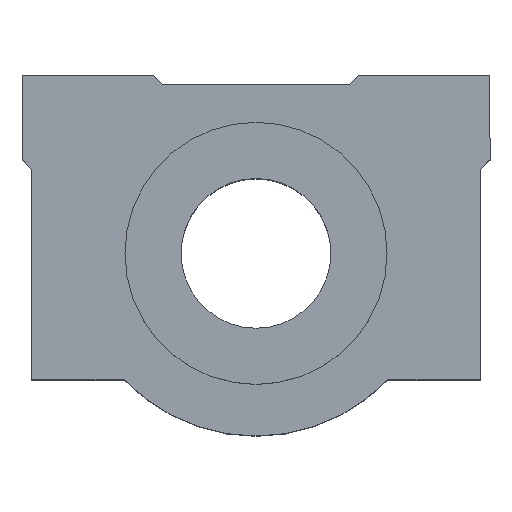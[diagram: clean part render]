
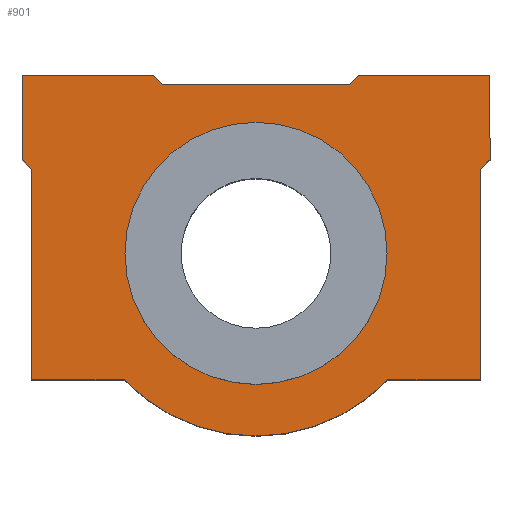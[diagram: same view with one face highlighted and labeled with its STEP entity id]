
A CAD part, top view. The second image highlights one B-rep face of the part: STEP entity #901.
In plain terms, the highlighted planar face has unit normal (0, 0, 1).
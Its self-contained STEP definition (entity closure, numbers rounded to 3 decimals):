
#133=CARTESIAN_POINT('',(-14.709,4.198,30.25));
#134=VERTEX_POINT('',#133);
#143=CARTESIAN_POINT('',(13.291,4.198,30.25));
#144=VERTEX_POINT('',#143);
#145=CARTESIAN_POINT('',(-0.709,4.198,30.25));
#146=DIRECTION('',(0.0,0.0,1.0));
#147=DIRECTION('',(-1.0,0.0,0.0));
#148=AXIS2_PLACEMENT_3D('',#145,#146,#147);
#149=CIRCLE('',#148,14.);
#150=EDGE_CURVE('',#134,#144,#149,.T.);
#522=CARTESIAN_POINT('',(24.291,14.198,30.25));
#523=VERTEX_POINT('',#522);
#524=CARTESIAN_POINT('',(23.291,13.198,30.25));
#525=VERTEX_POINT('',#524);
#526=CARTESIAN_POINT('',(24.291,14.198,30.25));
#527=DIRECTION('',(-0.707,-0.707,0.0));
#528=VECTOR('',#527,1.414);
#529=LINE('',#526,#528);
#530=EDGE_CURVE('',#523,#525,#529,.T.);
#553=CARTESIAN_POINT('',(23.291,-9.302,30.25));
#554=VERTEX_POINT('',#553);
#555=CARTESIAN_POINT('',(23.291,13.198,30.25));
#556=DIRECTION('',(0.0,-1.0,0.0));
#557=VECTOR('',#556,22.5);
#558=LINE('',#555,#557);
#559=EDGE_CURVE('',#525,#554,#558,.T.);
#577=CARTESIAN_POINT('',(13.362,-9.302,30.25));
#578=VERTEX_POINT('',#577);
#579=CARTESIAN_POINT('',(23.291,-9.302,30.25));
#580=DIRECTION('',(-1.0,0.0,0.0));
#581=VECTOR('',#580,9.929);
#582=LINE('',#579,#581);
#583=EDGE_CURVE('',#554,#578,#582,.T.);
#605=CARTESIAN_POINT('',(-14.78,-9.302,30.25));
#606=VERTEX_POINT('',#605);
#607=CARTESIAN_POINT('',(-0.709,4.198,30.25));
#608=DIRECTION('',(0.0,0.0,-1.));
#609=DIRECTION('',(0.722,0.692,0.0));
#610=AXIS2_PLACEMENT_3D('',#607,#608,#609);
#611=CIRCLE('',#610,19.5);
#612=EDGE_CURVE('',#578,#606,#611,.T.);
#630=CARTESIAN_POINT('',(-24.709,-9.302,30.25));
#631=VERTEX_POINT('',#630);
#632=CARTESIAN_POINT('',(-14.78,-9.302,30.25));
#633=DIRECTION('',(-1.0,0.0,0.0));
#634=VECTOR('',#633,9.929);
#635=LINE('',#632,#634);
#636=EDGE_CURVE('',#606,#631,#635,.T.);
#658=CARTESIAN_POINT('',(-24.709,13.198,30.25));
#659=VERTEX_POINT('',#658);
#660=CARTESIAN_POINT('',(-24.709,-9.302,30.25));
#661=DIRECTION('',(0.0,1.0,0.0));
#662=VECTOR('',#661,22.5);
#663=LINE('',#660,#662);
#664=EDGE_CURVE('',#631,#659,#663,.T.);
#682=CARTESIAN_POINT('',(-25.709,14.198,30.25));
#683=VERTEX_POINT('',#682);
#684=CARTESIAN_POINT('',(-24.709,13.198,30.25));
#685=DIRECTION('',(-0.707,0.707,0.0));
#686=VECTOR('',#685,1.414);
#687=LINE('',#684,#686);
#688=EDGE_CURVE('',#659,#683,#687,.T.);
#706=CARTESIAN_POINT('',(-25.709,23.198,30.25));
#707=VERTEX_POINT('',#706);
#708=CARTESIAN_POINT('',(-25.709,14.198,30.25));
#709=DIRECTION('',(0.0,1.0,0.0));
#710=VECTOR('',#709,9.);
#711=LINE('',#708,#710);
#712=EDGE_CURVE('',#683,#707,#711,.T.);
#730=CARTESIAN_POINT('',(-11.709,23.198,30.25));
#731=VERTEX_POINT('',#730);
#732=CARTESIAN_POINT('',(-25.709,23.198,30.25));
#733=DIRECTION('',(1.0,0.0,0.0));
#734=VECTOR('',#733,14.);
#735=LINE('',#732,#734);
#736=EDGE_CURVE('',#707,#731,#735,.T.);
#758=CARTESIAN_POINT('',(-10.709,22.198,30.25));
#759=VERTEX_POINT('',#758);
#760=CARTESIAN_POINT('',(-11.709,23.198,30.25));
#761=DIRECTION('',(0.707,-0.707,0.0));
#762=VECTOR('',#761,1.414);
#763=LINE('',#760,#762);
#764=EDGE_CURVE('',#731,#759,#763,.T.);
#782=CARTESIAN_POINT('',(9.291,22.198,30.25));
#783=VERTEX_POINT('',#782);
#784=CARTESIAN_POINT('',(-10.709,22.198,30.25));
#785=DIRECTION('',(1.0,0.0,0.0));
#786=VECTOR('',#785,20.);
#787=LINE('',#784,#786);
#788=EDGE_CURVE('',#759,#783,#787,.T.);
#806=CARTESIAN_POINT('',(10.291,23.198,30.25));
#807=VERTEX_POINT('',#806);
#808=CARTESIAN_POINT('',(9.291,22.198,30.25));
#809=DIRECTION('',(0.707,0.707,0.0));
#810=VECTOR('',#809,1.414);
#811=LINE('',#808,#810);
#812=EDGE_CURVE('',#783,#807,#811,.T.);
#830=CARTESIAN_POINT('',(24.291,23.198,30.25));
#831=VERTEX_POINT('',#830);
#832=CARTESIAN_POINT('',(10.291,23.198,30.25));
#833=DIRECTION('',(1.0,0.0,0.0));
#834=VECTOR('',#833,14.);
#835=LINE('',#832,#834);
#836=EDGE_CURVE('',#807,#831,#835,.T.);
#858=CARTESIAN_POINT('',(24.291,23.198,30.25));
#859=DIRECTION('',(0.0,-1.0,0.0));
#860=VECTOR('',#859,9.);
#861=LINE('',#858,#860);
#862=EDGE_CURVE('',#831,#523,#861,.T.);
#870=CARTESIAN_POINT('',(-0.709,6.142,30.25));
#871=DIRECTION('',(0.0,0.0,1.0));
#872=DIRECTION('',(1.0,0.0,0.0));
#873=AXIS2_PLACEMENT_3D('',#870,#871,#872);
#874=PLANE('',#873);
#875=ORIENTED_EDGE('',*,*,#530,.F.);
#876=ORIENTED_EDGE('',*,*,#862,.F.);
#877=ORIENTED_EDGE('',*,*,#836,.F.);
#878=ORIENTED_EDGE('',*,*,#812,.F.);
#879=ORIENTED_EDGE('',*,*,#788,.F.);
#880=ORIENTED_EDGE('',*,*,#764,.F.);
#881=ORIENTED_EDGE('',*,*,#736,.F.);
#882=ORIENTED_EDGE('',*,*,#712,.F.);
#883=ORIENTED_EDGE('',*,*,#688,.F.);
#884=ORIENTED_EDGE('',*,*,#664,.F.);
#885=ORIENTED_EDGE('',*,*,#636,.F.);
#886=ORIENTED_EDGE('',*,*,#612,.F.);
#887=ORIENTED_EDGE('',*,*,#583,.F.);
#888=ORIENTED_EDGE('',*,*,#559,.F.);
#889=EDGE_LOOP('',(#875,#876,#877,#878,#879,#880,#881,#882,#883,#884,#885,#886,#887,#888));
#890=FACE_OUTER_BOUND('',#889,.T.);
#891=CARTESIAN_POINT('',(-0.709,4.198,30.25));
#892=DIRECTION('',(0.0,0.0,1.0));
#893=DIRECTION('',(-1.0,0.0,0.0));
#894=AXIS2_PLACEMENT_3D('',#891,#892,#893);
#895=CIRCLE('',#894,14.);
#896=EDGE_CURVE('',#144,#134,#895,.T.);
#897=ORIENTED_EDGE('',*,*,#896,.F.);
#898=ORIENTED_EDGE('',*,*,#150,.F.);
#899=EDGE_LOOP('',(#897,#898));
#900=FACE_BOUND('',#899,.T.);
#901=ADVANCED_FACE('',(#890,#900),#874,.T.);
